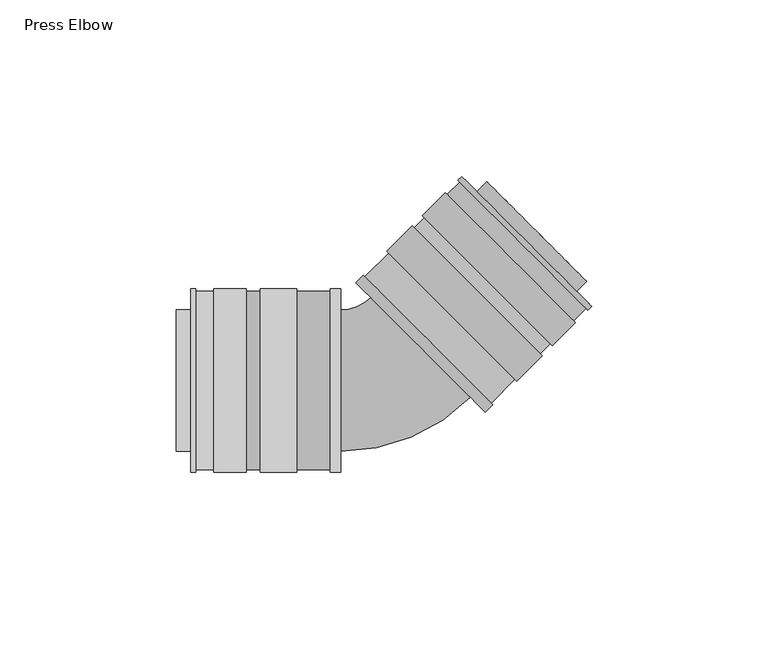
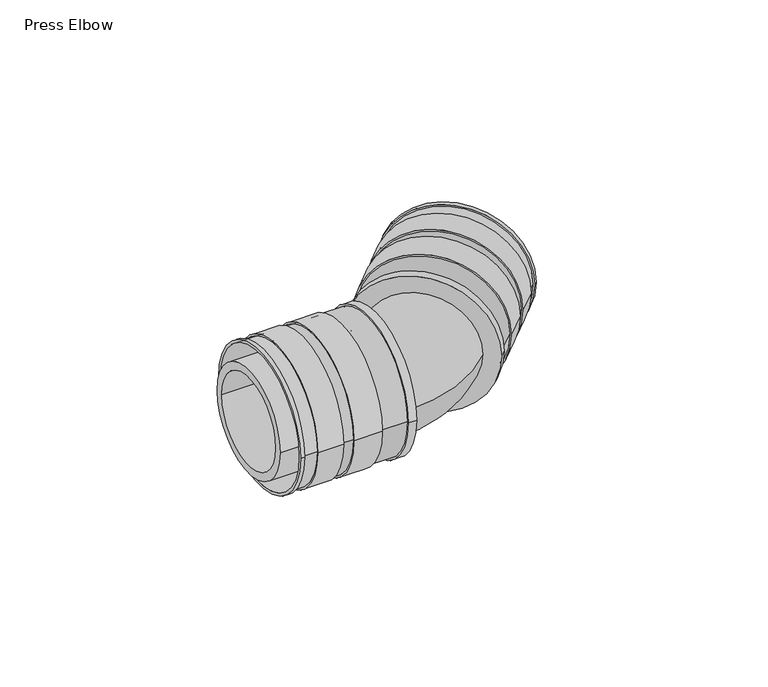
"""IFC4 building model written with IfcOpenShell, lengths in millimetres: pipe fitting geometry, Press Elbow : Superpipe Press Elbow."""

from ifc_helpers import new_model, si_unit, point, frame, origin, origin_2d, place, context, project, spatial, polyline, circle_curve, ellipse_curve, trimmed, segment, composite_curve, outline, extrude, source, transform, mapped, element, save
from ifc_brep_helpers import plane_surface, cylinder_surface, revolved_surface, advanced_brep


def press_elbow_845db7d8(model_context):
    return source(origin(), model_context, "Body", "SolidModel", [
        advanced_brep(
        [(-6.3958982, 29.3837049, 0.0), (29.3837049, -6.3958982, 0.0), (29.1715729, -6.1837662, 0.0), (-6.1837662, 29.1715729, 0.0), (57.8093975, 21.0398449, 0.0), (21.0398449, 57.8093975, 0.0), (57.1022907, 21.7469517, 0.0), (21.7469517, 57.1022907, 0.0), (56.7487373, 19.9791847, 0.0), (19.9791847, 56.7487373, 0.0), (36.5961941, -0.1733585, 0.0), (-0.1733585, 36.5961941, 0.0), (7.074486, 43.8440386, 0.0), (43.8440386, 7.074486, 0.0), (46.6724657, 9.9029131, 0.0), (9.9029131, 46.6724657, 0.0), (16.4436508, 53.2132034, 0.0), (53.2132034, 16.4436508, 0.0), (36.1012193, 0.3216162, 0.0), (0.3216162, 36.1012193, 0.0), (43.3490638, 7.5694607, 0.0), (7.5694607, 43.3490638, 0.0), (46.177491, 10.3978878, 0.0), (10.3978878, 46.177491, 0.0), (20.4741595, 56.2537626, 0.0), (56.2537626, 20.4741595, 0.0), (16.9386256, 52.7182287, 0.0), (52.7182287, 16.9386256, 0.0)],
        [
            (0, 1, circle_curve(frame((11.4939033, 11.4939033, 0.0), z_axis=(-0.707106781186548, -0.7071067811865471, 0.0), x_axis=(-0.7071067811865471, 0.707106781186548, 0.0)), 25.3)),
            (1, 0, circle_curve(frame((11.4939033, 11.4939033, 0.0), z_axis=(-0.707106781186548, -0.7071067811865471, 0.0), x_axis=(-0.7071067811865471, 0.707106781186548, 0.0)), 25.3)),
            (2, 3, circle_curve(frame((11.4939033, 11.4939033, 0.0), z_axis=(0.7071067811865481, 0.7071067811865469, 0.0), x_axis=(-0.7071067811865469, 0.7071067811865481, 0.0)), 25.0)),
            (3, 2, circle_curve(frame((11.4939033, 11.4939033, 0.0), z_axis=(0.7071067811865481, 0.7071067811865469, 0.0), x_axis=(-0.7071067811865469, 0.7071067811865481, 0.0)), 25.0)),
            (4, 5, circle_curve(frame((39.4246212, 39.4246212, 0.0), z_axis=(0.7071067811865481, 0.7071067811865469, 0.0), x_axis=(-0.7071067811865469, 0.7071067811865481, 0.0)), 26.0)),
            (5, 4, circle_curve(frame((39.4246212, 39.4246212, 0.0), z_axis=(0.7071067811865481, 0.7071067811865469, 0.0), x_axis=(-0.7071067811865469, 0.7071067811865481, 0.0)), 26.0)),
            (6, 7, circle_curve(frame((39.4246212, 39.4246212, 0.0), z_axis=(-0.7071067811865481, -0.7071067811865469, 0.0), x_axis=(-0.7071067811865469, 0.7071067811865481, 0.0)), 25.0)),
            (7, 6, circle_curve(frame((39.4246212, 39.4246212, 0.0), z_axis=(-0.7071067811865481, -0.7071067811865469, 0.0), x_axis=(-0.7071067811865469, 0.7071067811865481, 0.0)), 25.0)),
            (4, 8),
            (8, 9, circle_curve(frame((38.363961, 38.363961, 0.0), z_axis=(0.7071067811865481, 0.7071067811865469, 0.0), x_axis=(-0.7071067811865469, 0.7071067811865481, 0.0)), 26.0)),
            (9, 5),
            (10, 11, circle_curve(frame((18.2114178, 18.2114178, 0.0), z_axis=(0.7071067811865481, 0.7071067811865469, 0.0), x_axis=(-0.7071067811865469, 0.7071067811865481, 0.0)), 26.0)),
            (11, 12),
            (12, 13, circle_curve(frame((25.4592623, 25.4592623, 0.0), z_axis=(-0.7071067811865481, -0.7071067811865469, 0.0), x_axis=(-0.7071067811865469, 0.7071067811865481, 0.0)), 26.0)),
            (13, 10),
            (14, 15, circle_curve(frame((28.2876894, 28.2876894, 0.0), z_axis=(0.7071067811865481, 0.7071067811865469, 0.0), x_axis=(-0.7071067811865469, 0.7071067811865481, 0.0)), 26.0)),
            (15, 16),
            (16, 17, circle_curve(frame((34.8284271, 34.8284271, 0.0), z_axis=(-0.7071067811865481, -0.7071067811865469, 0.0), x_axis=(-0.7071067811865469, 0.7071067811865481, 0.0)), 26.0)),
            (17, 14),
            (9, 8, circle_curve(frame((38.363961, 38.363961, 0.0), z_axis=(0.7071067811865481, 0.7071067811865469, 0.0), x_axis=(-0.7071067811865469, 0.7071067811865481, 0.0)), 26.0)),
            (11, 10, circle_curve(frame((18.2114178, 18.2114178, 0.0), z_axis=(0.7071067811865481, 0.7071067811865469, 0.0), x_axis=(-0.7071067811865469, 0.7071067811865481, 0.0)), 26.0)),
            (13, 12, circle_curve(frame((25.4592623, 25.4592623, 0.0), z_axis=(-0.7071067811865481, -0.7071067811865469, 0.0), x_axis=(-0.7071067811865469, 0.7071067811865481, 0.0)), 26.0)),
            (15, 14, circle_curve(frame((28.2876894, 28.2876894, 0.0), z_axis=(0.7071067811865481, 0.7071067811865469, 0.0), x_axis=(-0.7071067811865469, 0.7071067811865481, 0.0)), 26.0)),
            (17, 16, circle_curve(frame((34.8284271, 34.8284271, 0.0), z_axis=(-0.7071067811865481, -0.7071067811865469, 0.0), x_axis=(-0.7071067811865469, 0.7071067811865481, 0.0)), 26.0)),
            (3, 7),
            (6, 2),
            (18, 19, circle_curve(frame((18.2114178, 18.2114178, 0.0), z_axis=(0.707106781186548, 0.7071067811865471, 0.0), x_axis=(-0.7071067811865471, 0.707106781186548, 0.0)), 25.3)),
            (19, 18, circle_curve(frame((18.2114178, 18.2114178, 0.0), z_axis=(0.707106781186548, 0.7071067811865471, 0.0), x_axis=(-0.7071067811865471, 0.707106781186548, 0.0)), 25.3)),
            (18, 1),
            (0, 19),
            (20, 21, circle_curve(frame((25.4592623, 25.4592623, 0.0), z_axis=(-0.7071067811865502, -0.7071067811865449, 0.0), x_axis=(-0.7071067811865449, 0.7071067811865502, 0.0)), 25.3)),
            (21, 20, circle_curve(frame((25.4592623, 25.4592623, 0.0), z_axis=(-0.7071067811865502, -0.7071067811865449, 0.0), x_axis=(-0.7071067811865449, 0.7071067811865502, 0.0)), 25.3)),
            (22, 23, circle_curve(frame((28.2876894, 28.2876894, 0.0), z_axis=(0.7071067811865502, 0.7071067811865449, 0.0), x_axis=(-0.7071067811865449, 0.7071067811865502, 0.0)), 25.3)),
            (23, 22, circle_curve(frame((28.2876894, 28.2876894, 0.0), z_axis=(0.7071067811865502, 0.7071067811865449, 0.0), x_axis=(-0.7071067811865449, 0.7071067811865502, 0.0)), 25.3)),
            (21, 23),
            (22, 20),
            (24, 25, circle_curve(frame((38.363961, 38.363961, 0.0), z_axis=(0.7071067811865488, 0.7071067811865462, 0.0), x_axis=(0.7071067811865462, -0.7071067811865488, 0.0)), 25.3)),
            (25, 24, circle_curve(frame((38.363961, 38.363961, 0.0), z_axis=(0.7071067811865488, 0.7071067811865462, 0.0), x_axis=(0.7071067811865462, -0.7071067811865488, 0.0)), 25.3)),
            (26, 27, circle_curve(frame((34.8284271, 34.8284271, 0.0), z_axis=(-0.7071067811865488, -0.7071067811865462, 0.0), x_axis=(0.7071067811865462, -0.7071067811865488, 0.0)), 25.3)),
            (27, 26, circle_curve(frame((34.8284271, 34.8284271, 0.0), z_axis=(-0.7071067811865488, -0.7071067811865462, 0.0), x_axis=(0.7071067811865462, -0.7071067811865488, 0.0)), 25.3)),
            (25, 27),
            (26, 24),
        ],
        [
            plane_surface(frame((11.4939033, 11.4939033, 0.0), z_axis=(-0.7071067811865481, -0.7071067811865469, 0.0), x_axis=(0.0, 0.0, 1.0))),
            plane_surface(frame((39.4246212, 39.4246212, 0.0), z_axis=(0.7071067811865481, 0.7071067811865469, 0.0), x_axis=(0.0, 0.0, 1.0))),
            cylinder_surface(frame((11.4939033, 11.4939033, 0.0), z_axis=(-0.7071067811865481, -0.7071067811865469, 0.0), x_axis=(-0.7071067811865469, 0.7071067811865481, 0.0)), 26.0),
            revolved_surface(polyline([(21.74695167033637, 57.10229072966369, 0.0), (-6.1837662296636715, 29.171572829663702, 0.0)]), (11.4939033, 11.4939033, 0.0), (0.7071067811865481, 0.7071067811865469, 0.0)),
            plane_surface(frame((18.2114178, 18.2114178, 0.0), z_axis=(-0.707106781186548, -0.7071067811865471, 0.0), x_axis=(0.0, 0.0, 1.0))),
            cylinder_surface(frame((11.4939033, 11.4939033, 0.0), z_axis=(0.707106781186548, 0.7071067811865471, 0.0), x_axis=(-0.7071067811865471, 0.707106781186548, 0.0)), 25.3),
            plane_surface(frame((25.4592623, 25.4592623, 0.0), z_axis=(0.7071067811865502, 0.7071067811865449, 0.0), x_axis=(0.0, 0.0, 1.0))),
            plane_surface(frame((28.2876894, 28.2876894, 0.0), z_axis=(-0.7071067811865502, -0.7071067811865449, 0.0), x_axis=(0.0, 0.0, 1.0))),
            cylinder_surface(frame((25.4592623, 25.4592623, 0.0), z_axis=(0.7071067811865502, 0.7071067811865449, 0.0), x_axis=(-0.7071067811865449, 0.7071067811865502, 0.0)), 25.3),
            plane_surface(frame((38.363961, 38.363961, 0.0), z_axis=(-0.7071067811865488, -0.7071067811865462, 0.0), x_axis=(0.0, 0.0, 1.0))),
            plane_surface(frame((34.8284271, 34.8284271, 0.0), z_axis=(0.7071067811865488, 0.7071067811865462, 0.0), x_axis=(0.0, 0.0, 1.0))),
            cylinder_surface(frame((38.363961, 38.363961, 0.0), z_axis=(-0.7071067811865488, -0.7071067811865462, 0.0), x_axis=(0.7071067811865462, -0.7071067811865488, 0.0)), 25.3),
        ],
        [
            (0, [[1, 2], [3, 4]]),
            (1, [[5, 6], [7, 8]]),
            (2, [[-5, 9, 10, 11]]),
            (2, [[12, 13, 14, 15]]),
            (2, [[16, 17, 18, 19]]),
            (2, [[-6, -11, 20, -9]]),
            (2, [[21, -15, 22, -13]]),
            (2, [[23, -19, 24, -17]]),
            (3, [[-4, 25, -7, 26]]),
            (3, [[-3, -26, -8, -25]]),
            (4, [[-12, -21], [27, 28]]),
            (5, [[-27, 29, -1, 30]]),
            (5, [[-28, -30, -2, -29]]),
            (6, [[-14, -22], [31, 32]]),
            (7, [[-16, -23], [33, 34]]),
            (8, [[-32, 35, -33, 36]]),
            (8, [[-31, -36, -34, -35]]),
            (9, [[-10, -20], [37, 38]]),
            (10, [[-18, -24], [39, 40]]),
            (11, [[-38, 41, -39, 42]]),
            (11, [[-37, -42, -40, -41]]),
        ],
    ),
        advanced_brep(
        [(-16.254834, -25.3, 0.0), (-16.254834, 25.3, 0.0), (-16.254834, 25.0, 0.0), (-16.254834, -25.0, 0.0), (-55.754834, 26.0, 0.0), (-55.754834, -26.0, 0.0), (-55.754834, 25.0, 0.0), (-55.754834, -25.0, 0.0), (-54.254834, 26.0, 0.0), (-54.254834, -26.0, 0.0), (-36.004834, -26.0, 0.0), (-36.004834, 26.0, 0.0), (-25.754834, 26.0, 0.0), (-25.754834, -26.0, 0.0), (-40.004834, 26.0, 0.0), (-40.004834, -26.0, 0.0), (-49.254834, -26.0, 0.0), (-49.254834, 26.0, 0.0), (-36.004834, 25.3, 0.0), (-36.004834, -25.3, 0.0), (-40.004834, 25.3, 0.0), (-40.004834, -25.3, 0.0), (-54.254834, -25.3, 0.0), (-54.254834, 25.3, 0.0), (-49.254834, -25.3, 0.0), (-49.254834, 25.3, 0.0), (-25.754834, 25.3, 0.0), (-25.754834, -25.3, 0.0)],
        [
            (0, 1, circle_curve(frame((-16.254834, 0.0, 0.0), z_axis=(1.0, 0.0, 0.0), x_axis=(0.0, -1.0, 0.0)), 25.3)),
            (1, 0, circle_curve(frame((-16.254834, 0.0, 0.0), z_axis=(1.0, 0.0, 0.0), x_axis=(0.0, -1.0, 0.0)), 25.3)),
            (2, 3, circle_curve(frame((-16.254834, 0.0, 0.0), z_axis=(-1.0, 0.0, 0.0), x_axis=(0.0, -1.0, 0.0)), 25.0)),
            (3, 2, circle_curve(frame((-16.254834, 0.0, 0.0), z_axis=(-1.0, 0.0, 0.0), x_axis=(0.0, -1.0, 0.0)), 25.0)),
            (4, 5, circle_curve(frame((-55.754834, 0.0, 0.0), z_axis=(-1.0, 0.0, 0.0), x_axis=(0.0, -1.0, 0.0)), 26.0)),
            (5, 4, circle_curve(frame((-55.754834, 0.0, 0.0), z_axis=(-1.0, 0.0, 0.0), x_axis=(0.0, -1.0, 0.0)), 26.0)),
            (6, 7, circle_curve(frame((-55.754834, 0.0, 0.0), z_axis=(1.0, 0.0, 0.0), x_axis=(0.0, -1.0, 0.0)), 25.0)),
            (7, 6, circle_curve(frame((-55.754834, 0.0, 0.0), z_axis=(1.0, 0.0, 0.0), x_axis=(0.0, -1.0, 0.0)), 25.0)),
            (3, 7),
            (6, 2),
            (4, 8),
            (8, 9, circle_curve(frame((-54.254834, 0.0, 0.0), z_axis=(-1.0, 0.0, 0.0), x_axis=(0.0, -1.0, 0.0)), 26.0)),
            (9, 5),
            (10, 11, circle_curve(frame((-36.004834, 0.0, 0.0), z_axis=(1.0, 0.0, 0.0), x_axis=(0.0, -1.0, 0.0)), 26.0)),
            (11, 12),
            (12, 13, circle_curve(frame((-25.754834, 0.0, 0.0), z_axis=(-1.0, 0.0, 0.0), x_axis=(0.0, -1.0, 0.0)), 26.0)),
            (13, 10),
            (14, 15, circle_curve(frame((-40.004834, 0.0, 0.0), z_axis=(-1.0, 0.0, 0.0), x_axis=(0.0, -1.0, 0.0)), 26.0)),
            (15, 16),
            (16, 17, circle_curve(frame((-49.254834, 0.0, 0.0), z_axis=(1.0, 0.0, 0.0), x_axis=(0.0, -1.0, 0.0)), 26.0)),
            (17, 14),
            (9, 8, circle_curve(frame((-54.254834, 0.0, 0.0), z_axis=(-1.0, 0.0, 0.0), x_axis=(0.0, -1.0, 0.0)), 26.0)),
            (11, 10, circle_curve(frame((-36.004834, 0.0, 0.0), z_axis=(1.0, 0.0, 0.0), x_axis=(0.0, -1.0, 0.0)), 26.0)),
            (13, 12, circle_curve(frame((-25.754834, 0.0, 0.0), z_axis=(-1.0, 0.0, 0.0), x_axis=(0.0, -1.0, 0.0)), 26.0)),
            (15, 14, circle_curve(frame((-40.004834, 0.0, 0.0), z_axis=(-1.0, 0.0, 0.0), x_axis=(0.0, -1.0, 0.0)), 26.0)),
            (17, 16, circle_curve(frame((-49.254834, 0.0, 0.0), z_axis=(1.0, 0.0, 0.0), x_axis=(0.0, -1.0, 0.0)), 26.0)),
            (18, 19, circle_curve(frame((-36.004834, 0.0, 0.0), z_axis=(1.0, 0.0, 0.0), x_axis=(0.0, -1.0, 0.0)), 25.3)),
            (19, 18, circle_curve(frame((-36.004834, 0.0, 0.0), z_axis=(1.0, 0.0, 0.0), x_axis=(0.0, -1.0, 0.0)), 25.3)),
            (20, 21, circle_curve(frame((-40.004834, 0.0, 0.0), z_axis=(-1.0, 0.0, 0.0), x_axis=(0.0, -1.0, 0.0)), 25.3)),
            (21, 20, circle_curve(frame((-40.004834, 0.0, 0.0), z_axis=(-1.0, 0.0, 0.0), x_axis=(0.0, -1.0, 0.0)), 25.3)),
            (19, 21),
            (20, 18),
            (22, 23, circle_curve(frame((-54.254834, 0.0, 0.0), z_axis=(-1.0, 0.0, 0.0), x_axis=(0.0, 1.0, 0.0)), 25.3)),
            (23, 22, circle_curve(frame((-54.254834, 0.0, 0.0), z_axis=(-1.0, 0.0, 0.0), x_axis=(0.0, 1.0, 0.0)), 25.3)),
            (24, 25, circle_curve(frame((-49.254834, 0.0, 0.0), z_axis=(1.0, 0.0, 0.0), x_axis=(0.0, 1.0, 0.0)), 25.3)),
            (25, 24, circle_curve(frame((-49.254834, 0.0, 0.0), z_axis=(1.0, 0.0, 0.0), x_axis=(0.0, 1.0, 0.0)), 25.3)),
            (23, 25),
            (24, 22),
            (26, 27, circle_curve(frame((-25.754834, 0.0, 0.0), z_axis=(-1.0, 0.0, 0.0), x_axis=(0.0, -1.0, 0.0)), 25.3)),
            (27, 26, circle_curve(frame((-25.754834, 0.0, 0.0), z_axis=(-1.0, 0.0, 0.0), x_axis=(0.0, -1.0, 0.0)), 25.3)),
            (26, 1),
            (0, 27),
        ],
        [
            plane_surface(frame((-16.254834, 0.0, 0.0), z_axis=(1.0, 0.0, 0.0), x_axis=(0.0, 0.0, 1.0))),
            plane_surface(frame((-55.754834, 0.0, 0.0), z_axis=(-1.0, 0.0, 0.0), x_axis=(0.0, 0.0, 1.0))),
            revolved_surface(polyline([(-55.754834, -25.0, 0.0), (-16.254834, -25.0, 0.0)]), (-16.254834, 0.0, 0.0), (-1.0, 0.0, 0.0)),
            cylinder_surface(frame((-16.254834, 0.0, 0.0), z_axis=(1.0, 0.0, 0.0), x_axis=(0.0, -1.0, 0.0)), 26.0),
            plane_surface(frame((-36.004834, 0.0, 0.0), z_axis=(-1.0, 0.0, 0.0), x_axis=(0.0, 0.0, 1.0))),
            plane_surface(frame((-40.004834, 0.0, 0.0), z_axis=(1.0, 0.0, 0.0), x_axis=(0.0, 0.0, 1.0))),
            cylinder_surface(frame((-36.004834, 0.0, 0.0), z_axis=(-1.0, 0.0, 0.0), x_axis=(0.0, -1.0, 0.0)), 25.3),
            plane_surface(frame((-54.254834, 0.0, 0.0), z_axis=(1.0, 0.0, 0.0), x_axis=(0.0, 0.0, 1.0))),
            plane_surface(frame((-49.254834, 0.0, 0.0), z_axis=(-1.0, 0.0, 0.0), x_axis=(0.0, 0.0, 1.0))),
            cylinder_surface(frame((-54.254834, 0.0, 0.0), z_axis=(1.0, 0.0, 0.0), x_axis=(0.0, 1.0, 0.0)), 25.3),
            plane_surface(frame((-25.754834, 0.0, 0.0), z_axis=(1.0, 0.0, 0.0), x_axis=(0.0, 0.0, 1.0))),
            cylinder_surface(frame((-16.254834, 0.0, 0.0), z_axis=(-1.0, 0.0, 0.0), x_axis=(0.0, -1.0, 0.0)), 25.3),
        ],
        [
            (0, [[1, 2], [3, 4]]),
            (1, [[5, 6], [7, 8]]),
            (2, [[-4, 9, -7, 10]]),
            (2, [[-3, -10, -8, -9]]),
            (3, [[-5, 11, 12, 13]]),
            (3, [[14, 15, 16, 17]]),
            (3, [[18, 19, 20, 21]]),
            (3, [[-6, -13, 22, -11]]),
            (3, [[23, -17, 24, -15]]),
            (3, [[25, -21, 26, -19]]),
            (4, [[-14, -23], [27, 28]]),
            (5, [[-18, -25], [29, 30]]),
            (6, [[-28, 31, -29, 32]]),
            (6, [[-27, -32, -30, -31]]),
            (7, [[-12, -22], [33, 34]]),
            (8, [[-20, -26], [35, 36]]),
            (9, [[-34, 37, -35, 38]]),
            (9, [[-33, -38, -36, -37]]),
            (10, [[-16, -24], [39, 40]]),
            (11, [[-39, 41, -1, 42]]),
            (11, [[-40, -42, -2, -41]]),
        ],
    ),
        extrude(outline(composite_curve([segment(trimmed(circle_curve(origin_2d(), 20.0), [point((0.0, 20.0))], [point((0.0, -20.0))], False, "CARTESIAN"), True, "CONTINUOUS"), segment(trimmed(circle_curve(origin_2d(), 20.0), [point((0.0, -20.0))], [point((0.0, 20.0))], False, "CARTESIAN"), True, "CONTINUOUS")], self_intersect=False), holes=[composite_curve([segment(trimmed(circle_curve(origin_2d(), 17.0), [point((0.0, 17.0))], [point((0.0, -17.0))], True, "CARTESIAN"), True, "CONTINUOUS"), segment(trimmed(circle_curve(origin_2d(), 17.0), [point((0.0, -17.0))], [point((0.0, 17.0))], True, "CARTESIAN"), True, "CONTINUOUS")], self_intersect=False)]), frame((11.4939033, 11.4939033, 0.0), z_axis=(0.7071067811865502, 0.7071067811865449, 0.0), x_axis=(0.0, 0.0, 1.0)), (0.0, 0.0, 1.0), 43.5),
        extrude(outline(composite_curve([segment(trimmed(circle_curve(origin_2d(), 26.0), [point((0.0, 26.0))], [point((0.0, -26.0))], False, "CARTESIAN"), True, "CONTINUOUS"), segment(trimmed(circle_curve(origin_2d(), 26.0), [point((0.0, -26.0))], [point((0.0, 26.0))], False, "CARTESIAN"), True, "CONTINUOUS")], self_intersect=False), holes=[composite_curve([segment(trimmed(circle_curve(origin_2d(), 17.0), [point((0.0, 17.0))], [point((0.0, -17.0))], True, "CARTESIAN"), True, "CONTINUOUS"), segment(trimmed(circle_curve(origin_2d(), 17.0), [point((0.0, -17.0))], [point((0.0, 17.0))], True, "CARTESIAN"), True, "CONTINUOUS")], self_intersect=False)]), frame((9.372583, 9.372583, 0.0), z_axis=(0.7071067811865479, 0.7071067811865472, 0.0), x_axis=(0.0, 0.0, 1.0)), (0.0, 0.0, 1.0), 3.0),
        extrude(outline(composite_curve([segment(trimmed(circle_curve(origin_2d(), 26.0), [point((26.0, 0.0))], [point((-26.0, 0.0))], False, "CARTESIAN"), True, "CONTINUOUS"), segment(trimmed(circle_curve(origin_2d(), 26.0), [point((-26.0, 0.0))], [point((26.0, 0.0))], False, "CARTESIAN"), True, "CONTINUOUS")], self_intersect=False), holes=[composite_curve([segment(trimmed(circle_curve(origin_2d(), 17.0), [point((17.0, 0.0))], [point((-17.0, 0.0))], True, "CARTESIAN"), True, "CONTINUOUS"), segment(trimmed(circle_curve(origin_2d(), 17.0), [point((-17.0, 0.0))], [point((17.0, 0.0))], True, "CARTESIAN"), True, "CONTINUOUS")], self_intersect=False)]), frame((-16.254834, 0.0, 0.0), z_axis=(1.0, 0.0, 0.0), x_axis=(0.0, 1.0, 0.0)), (0.0, 0.0, 1.0), 3.0),
        extrude(outline(composite_curve([segment(trimmed(circle_curve(origin_2d(), 20.0), [point((20.0, 0.0))], [point((-20.0, 0.0))], False, "CARTESIAN"), True, "CONTINUOUS"), segment(trimmed(circle_curve(origin_2d(), 20.0), [point((-20.0, 0.0))], [point((20.0, 0.0))], False, "CARTESIAN"), True, "CONTINUOUS")], self_intersect=False), holes=[composite_curve([segment(trimmed(circle_curve(origin_2d(), 17.0), [point((17.0, 0.0))], [point((-17.0, 0.0))], True, "CARTESIAN"), True, "CONTINUOUS"), segment(trimmed(circle_curve(origin_2d(), 17.0), [point((-17.0, 0.0))], [point((17.0, 0.0))], True, "CARTESIAN"), True, "CONTINUOUS")], self_intersect=False)]), frame((-59.754834, 0.0, 0.0), z_axis=(1.0, 0.0, 0.0), x_axis=(0.0, 1.0, 0.0)), (0.0, 0.0, 1.0), 43.5),
        advanced_brep(
        [(-13.254834, -17.0, 0.0), (-13.254834, 17.0, 0.0), (21.3933983, -2.6482323, 0.0), (-2.6482323, 21.3933983, 0.0)],
        [
            (0, 1, circle_curve(frame((-13.254834, 0.0, 0.0), z_axis=(-1.0, 0.0, 0.0), x_axis=(0.0, 1.0, 0.0)), 17.0)),
            (1, 0, circle_curve(frame((-13.254834, 0.0, 0.0), z_axis=(-1.0, 0.0, 0.0), x_axis=(0.0, 1.0, 0.0)), 17.0)),
            (2, 3, circle_curve(frame((9.372583, 9.372583, 0.0), z_axis=(0.7071067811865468, 0.7071067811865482, 0.0), x_axis=(-0.7071067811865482, 0.7071067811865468, 0.0)), 17.0)),
            (3, 2, circle_curve(frame((9.372583, 9.372583, 0.0), z_axis=(0.7071067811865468, 0.7071067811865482, 0.0), x_axis=(-0.7071067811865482, 0.7071067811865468, 0.0)), 17.0)),
            (3, 1, circle_curve(frame((-13.254834, 32.0, 0.0), z_axis=(0.0, 0.0, -1.0), x_axis=(0.0, -1.0, 0.0)), 15.0)),
            (0, 2, circle_curve(frame((-13.254834, 32.0, 0.0), z_axis=(0.0, 0.0, 1.0), x_axis=(0.0, -1.0, 0.0)), 49.0)),
        ],
        [
            plane_surface(frame((-13.254834, 0.0, 0.0), z_axis=(-1.0, 0.0, 0.0), x_axis=(0.0, 0.0, 1.0))),
            plane_surface(frame((9.372583, 9.372583, 0.0), z_axis=(0.7071067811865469, 0.7071067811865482, 0.0), x_axis=(0.0, 0.0, 1.0))),
            revolved_surface(trimmed(ellipse_curve(frame((-13.254834, 0.0, 0.0), z_axis=(-1.0, 0.0, 0.0), x_axis=(0.0, 1.0, 0.0)), 17.0, 17.0), [point((-13.254834, -17.0, 0.0))], [point((-13.254834, 17.0, 0.0))], True, "CARTESIAN"), (-13.254834, 32.0, 0.0), (0.0, 0.0, 1.0)),
            revolved_surface(trimmed(ellipse_curve(frame((-13.254834, 0.0, 0.0), z_axis=(-1.0, 0.0, 0.0), x_axis=(0.0, 1.0, 0.0)), 17.0, 17.0), [point((-13.254834, 17.0, 0.0))], [point((-13.254834, -17.0, 0.0))], True, "CARTESIAN"), (-13.254834, 32.0, 0.0), (0.0, 0.0, 1.0)),
        ],
        [
            (0, [[1, 2]]),
            (1, [[3, 4]]),
            (2, [[5, -1, 6, -4]]),
            (3, [[-6, -2, -5, -3]]),
        ],
    ),
        advanced_brep(
        [(-13.254834, -20.0, 0.0), (-13.254834, 20.0, 0.0), (23.5147186, -4.7695526, 0.0), (-4.7695526, 23.5147186, 0.0)],
        [
            (0, 1, circle_curve(frame((-13.254834, 0.0, 0.0), z_axis=(-1.0, 0.0, 0.0), x_axis=(0.0, 1.0, 0.0)), 20.0)),
            (1, 0, circle_curve(frame((-13.254834, 0.0, 0.0), z_axis=(-1.0, 0.0, 0.0), x_axis=(0.0, 1.0, 0.0)), 20.0)),
            (2, 3, circle_curve(frame((9.372583, 9.372583, 0.0), z_axis=(0.7071067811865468, 0.7071067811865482, 0.0), x_axis=(-0.7071067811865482, 0.7071067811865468, 0.0)), 20.0)),
            (3, 2, circle_curve(frame((9.372583, 9.372583, 0.0), z_axis=(0.7071067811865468, 0.7071067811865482, 0.0), x_axis=(-0.7071067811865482, 0.7071067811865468, 0.0)), 20.0)),
            (3, 1, circle_curve(frame((-13.254834, 32.0, 0.0), z_axis=(0.0, 0.0, -1.0), x_axis=(0.0, -1.0, 0.0)), 12.0)),
            (0, 2, circle_curve(frame((-13.254834, 32.0, 0.0), z_axis=(0.0, 0.0, 1.0), x_axis=(0.0, -1.0, 0.0)), 52.0)),
        ],
        [
            plane_surface(frame((-13.254834, 0.0, 0.0), z_axis=(-1.0, 0.0, 0.0), x_axis=(0.0, 0.0, 1.0))),
            plane_surface(frame((9.372583, 9.372583, 0.0), z_axis=(0.7071067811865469, 0.7071067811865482, 0.0), x_axis=(0.0, 0.0, 1.0))),
            revolved_surface(trimmed(ellipse_curve(frame((-13.254834, 0.0, 0.0), z_axis=(-1.0, 0.0, 0.0), x_axis=(0.0, 1.0, 0.0)), 20.0, 20.0), [point((-13.254834, -20.0, 0.0))], [point((-13.254834, 20.0, 0.0))], True, "CARTESIAN"), (-13.254834, 32.0, 0.0), (0.0, 0.0, 1.0)),
            revolved_surface(trimmed(ellipse_curve(frame((-13.254834, 0.0, 0.0), z_axis=(-1.0, 0.0, 0.0), x_axis=(0.0, 1.0, 0.0)), 20.0, 20.0), [point((-13.254834, 20.0, 0.0))], [point((-13.254834, -20.0, 0.0))], True, "CARTESIAN"), (-13.254834, 32.0, 0.0), (0.0, 0.0, 1.0)),
        ],
        [
            (0, [[1, 2]]),
            (1, [[3, 4]]),
            (2, [[5, -1, 6, -4]]),
            (3, [[-6, -2, -5, -3]]),
        ],
    ),
    ])


if __name__ == "__main__":
    model = new_model("IFC4")
    model_context = context("Model", 3, world=origin())
    ifc_project = project(units=[si_unit("LENGTHUNIT", "METRE", prefix="MILLI")], contexts=[model_context])
    site = spatial("IfcSite", under=ifc_project)
    building = spatial("IfcBuilding", under=site)
    placement = place(None, origin())
    press_elbow_shape = press_elbow_845db7d8(model_context)
    element("IfcPipeFitting", 1, ObjectType="Press Elbow : Superpipe Press Elbow", at=placement, inside=building, context=model_context, shape_type="MappedRepresentation", body=[
        mapped(press_elbow_shape, transform((0.0, 0.0, 0.0), x_axis=(1.0, 0.0, 0.0), y_axis=(0.0, 1.0, 0.0), z_axis=(0.0, 0.0, 1.0))),
    ])
    save(model, "model.ifc")
